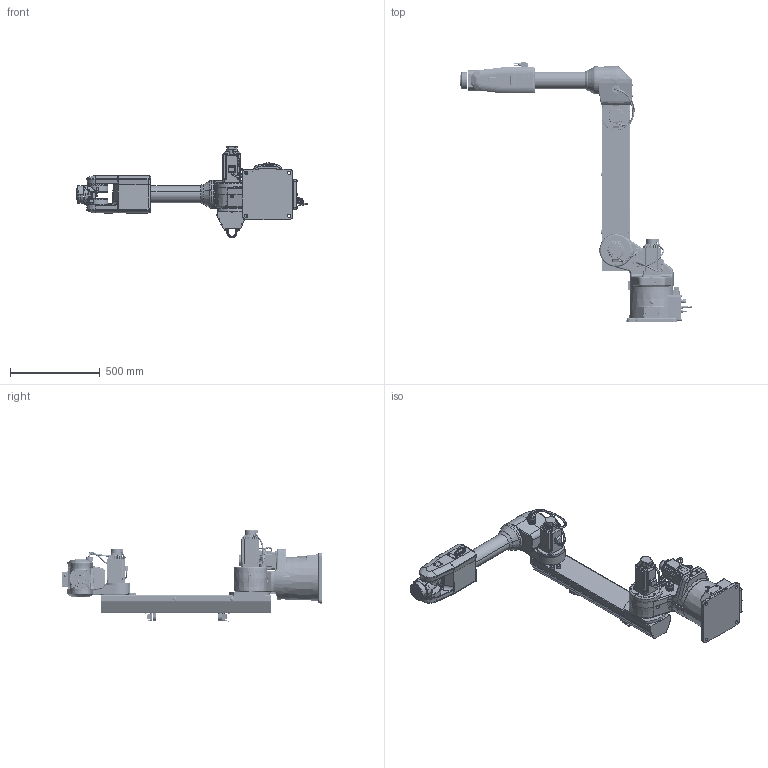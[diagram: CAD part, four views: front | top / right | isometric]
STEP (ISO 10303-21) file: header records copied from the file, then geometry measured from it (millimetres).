
FILE_DESCRIPTION((''),'2;1');
FILE_NAME('TVM1500_3D_ASM','2024-06-24T14:55:36',('15575'),(''),'CREO PARAMETRIC BY PTC INC, 2020454','CREO PARAMETRIC BY PTC INC, 2020454','');
FILE_SCHEMA(('AUTOMOTIVE_DESIGN { 1 0 10303 214 1 1 1 1 }'));
Products named in the file (7): TVM1500_BASE; TVM1500_BASE_TURN; TVM1500_1ST_ARM; TVM1500_2ND_ARM1; TVM1500_2ND_ARM2; TVM1500_3RD_ARM; TVM1500_3D_ASM
Assembly tree (6 placements, depth 2):
  TVM1500_3D_ASM
    TVM1500_BASE
    TVM1500_BASE_TURN
    TVM1500_1ST_ARM
    TVM1500_2ND_ARM1
    TVM1500_2ND_ARM2
    TVM1500_3RD_ARM
Bounding box: 1294.1 x 1452.8 x 511.14 mm (x, y, z)
Volume: 52359320.9 mm3; surface area: 2832983.7 mm2
Topology: 9 solids, 176 shells, 5405 faces, 14034 edges, 8972 vertices
Faces by surface type: plane 2244, cylinder 1984, cone 388, bspline 354, torus 221, sphere 124, extrusion 76, revolution 14
Entity records: 230408 total; most frequent: CARTESIAN_POINT 66055, ORIENTED_EDGE 27238, DIRECTION 26396, EDGE_CURVE 13872, AXIS2_PLACEMENT_3D 9985, VERTEX_POINT 8972, PRESENTATION_STYLE_ASSIGNMENT 6433, STYLED_ITEM 6433
